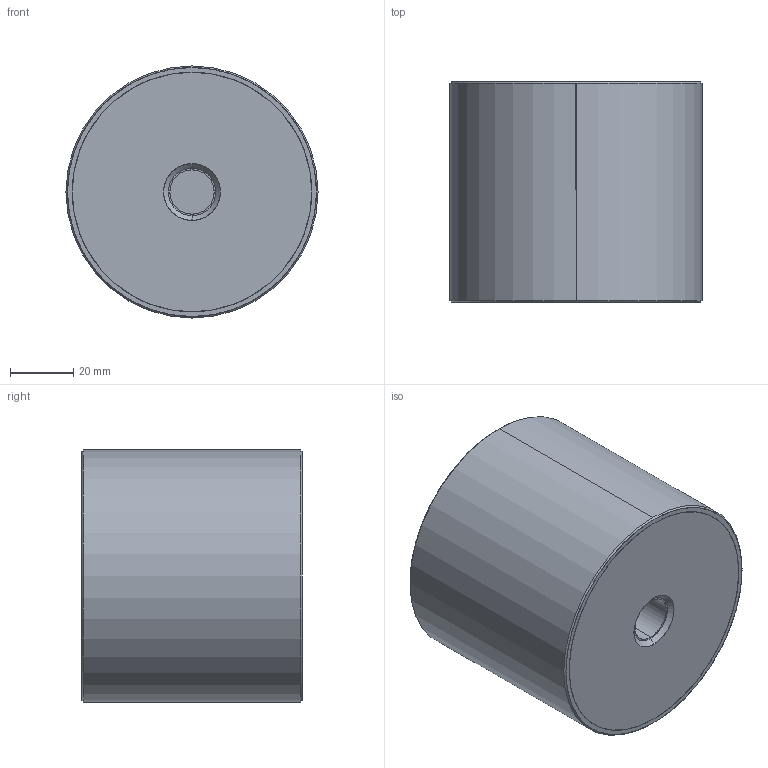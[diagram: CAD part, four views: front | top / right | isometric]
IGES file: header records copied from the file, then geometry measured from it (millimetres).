
Start section: SolidWorks IGES file using analytic representation for surfaces
Global section: file name: E:\WIXROYD 20180701\61080_v2\61080_v2_20180409_IGES\61080.W0801.igs; native system: SolidWorks 2017; preprocessor: SolidWorks 2017; author: liam_; date: 180716.214703; units: millimetre
Bounding box: 80 x 70 x 80 mm (x, y, z)
Surface area: 47533.7 mm2 (no closed solid volume)
Topology: 0 solids, 0 shells, 32 faces, 984 edges, 984 vertices
Faces by surface type: revolution 22, bspline 10
